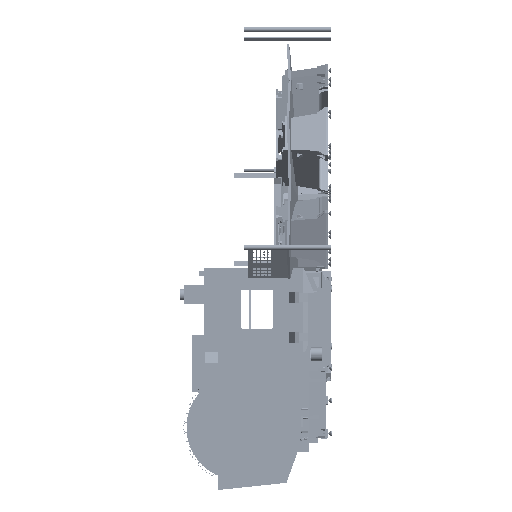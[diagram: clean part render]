
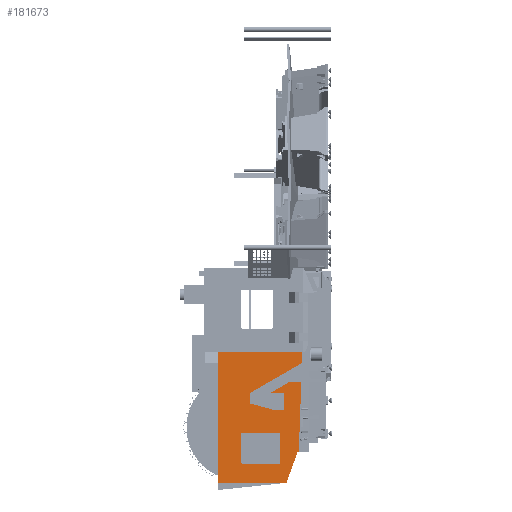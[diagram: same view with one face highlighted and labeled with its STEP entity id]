
A CAD part, left-side view. The second image highlights one B-rep face of the part: STEP entity #181673.
In plain terms, the highlighted planar face has unit normal (-1, 0, 0).
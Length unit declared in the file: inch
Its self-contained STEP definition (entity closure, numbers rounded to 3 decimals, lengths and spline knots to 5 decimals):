
#1323 = FACE_OUTER_BOUND ( 'NONE', #50277, .T. ) ;
#3857 = DIRECTION ( 'NONE',  ( 0., 0., 1. ) ) ;
#3967 = VERTEX_POINT ( 'NONE', #171233 ) ;
#14588 = EDGE_CURVE ( 'NONE', #66879, #314927, #60842, .T. ) ;
#18373 = VECTOR ( 'NONE', #172422, 39.37008 ) ;
#21450 = ORIENTED_EDGE ( 'NONE', *, *, #37521, .T. ) ;
#23327 = CARTESIAN_POINT ( 'NONE',  ( -56., 77.16475, -126.47279 ) ) ;
#31696 = EDGE_CURVE ( 'NONE', #3967, #137920, #278716, .T. ) ;
#32491 = CARTESIAN_POINT ( 'NONE',  ( -56., 8.60026, -117.41612 ) ) ;
#34394 = CARTESIAN_POINT ( 'NONE',  ( -56., 27.41629, -116.75905 ) ) ;
#37091 = EDGE_CURVE ( 'NONE', #155540, #3967, #298790, .T. ) ;
#37521 = EDGE_CURVE ( 'NONE', #282772, #155540, #141627, .T. ) ;
#37691 = CARTESIAN_POINT ( 'NONE',  ( -56., 44.16475, -125.47279 ) ) ;
#39473 = CARTESIAN_POINT ( 'NONE',  ( -56., 45.16475, -99.77279 ) ) ;
#41551 = DIRECTION ( 'NONE',  ( 0., -1., 0. ) ) ;
#44724 = EDGE_CURVE ( 'NONE', #304196, #302033, #367286, .T. ) ;
#50277 = EDGE_LOOP ( 'NONE', ( #216295, #274722, #21450, #270937, #64078, #387935, #379329 ) ) ;
#60164 = ORIENTED_EDGE ( 'NONE', *, *, #14588, .F. ) ;
#60842 = LINE ( 'NONE', #229911, #93441 ) ;
#61954 = EDGE_CURVE ( 'NONE', #302033, #411082, #347376, .T. ) ;
#63818 = AXIS2_PLACEMENT_3D ( 'NONE', #383178, #247014, #183325 ) ;
#64078 = ORIENTED_EDGE ( 'NONE', *, *, #31696, .T. ) ;
#66879 = VERTEX_POINT ( 'NONE', #193906 ) ;
#69306 = ORIENTED_EDGE ( 'NONE', *, *, #388114, .F. ) ;
#69742 = LINE ( 'NONE', #104814, #203654 ) ;
#70877 = CARTESIAN_POINT ( 'NONE',  ( -56., 77.16475, -100.77279 ) ) ;
#71530 = DIRECTION ( 'NONE',  ( 1., 0., 0. ) ) ;
#78164 = EDGE_CURVE ( 'NONE', #137920, #180106, #232664, .T. ) ;
#87718 = ORIENTED_EDGE ( 'NONE', *, *, #61954, .F. ) ;
#87929 = VECTOR ( 'NONE', #167023, 39.37008 ) ;
#88070 = CARTESIAN_POINT ( 'NONE',  ( -56., 45.16475, -99.77279 ) ) ;
#88130 = VERTEX_POINT ( 'NONE', #23327 ) ;
#93441 = VECTOR ( 'NONE', #131097, 39.37008 ) ;
#93548 = AXIS2_PLACEMENT_3D ( 'NONE', #307397, #371178, #235056 ) ;
#98379 = EDGE_LOOP ( 'NONE', ( #69306, #302757, #168346, #123710, #60164, #413974, #87718, #129448 ) ) ;
#98901 = CIRCLE ( 'NONE', #63818, 1. ) ;
#100047 = VECTOR ( 'NONE', #118863, 39.37008 ) ;
#104814 = CARTESIAN_POINT ( 'NONE',  ( -56., 44.16475, -125.47279 ) ) ;
#111806 = VECTOR ( 'NONE', #300366, 39.37008 ) ;
#114275 = CARTESIAN_POINT ( 'NONE',  ( -56., 78.16475, -125.47279 ) ) ;
#117899 = VECTOR ( 'NONE', #122185, 39.37008 ) ;
#118863 = DIRECTION ( 'NONE',  ( 0., 1., 0. ) ) ;
#120038 = LINE ( 'NONE', #418831, #117899 ) ;
#122185 = DIRECTION ( 'NONE',  ( 0., -0.035, 0.999 ) ) ;
#123710 = ORIENTED_EDGE ( 'NONE', *, *, #212138, .F. ) ;
#129448 = ORIENTED_EDGE ( 'NONE', *, *, #44724, .F. ) ;
#131097 = DIRECTION ( 'NONE',  ( 0., 0., -1. ) ) ;
#135282 = PLANE ( 'NONE',  #292554 ) ;
#136784 = DIRECTION ( 'NONE',  ( -1., 0., 0. ) ) ;
#137920 = VERTEX_POINT ( 'NONE', #408659 ) ;
#141627 = LINE ( 'NONE', #343659, #18373 ) ;
#142757 = VERTEX_POINT ( 'NONE', #34394 ) ;
#153890 = LINE ( 'NONE', #287828, #202375 ) ;
#155540 = VERTEX_POINT ( 'NONE', #347566 ) ;
#160976 = VERTEX_POINT ( 'NONE', #349201 ) ;
#161148 = CARTESIAN_POINT ( 'NONE',  ( -56., 44.16475, -100.77279 ) ) ;
#167023 = DIRECTION ( 'NONE',  ( 0., 0., -1. ) ) ;
#168283 = FACE_BOUND ( 'NONE', #98379, .T. ) ;
#168346 = ORIENTED_EDGE ( 'NONE', *, *, #326674, .F. ) ;
#171233 = CARTESIAN_POINT ( 'NONE',  ( -56., 98.04277, -143.66779 ) ) ;
#172422 = DIRECTION ( 'NONE',  ( 0., 1., 0. ) ) ;
#173636 = AXIS2_PLACEMENT_3D ( 'NONE', #212970, #177880, #377756 ) ;
#177880 = DIRECTION ( 'NONE',  ( -1., 0., 0. ) ) ;
#180106 = VERTEX_POINT ( 'NONE', #328549 ) ;
#181673 = ADVANCED_FACE ( 'NONE', ( #168283, #1323 ), #135282, .F. ) ;
#183325 = DIRECTION ( 'NONE',  ( 0., -1., 0. ) ) ;
#187075 = CARTESIAN_POINT ( 'NONE',  ( -56., 77.16475, -99.77279 ) ) ;
#193906 = CARTESIAN_POINT ( 'NONE',  ( -56., 78.16475, -100.77279 ) ) ;
#193942 = EDGE_CURVE ( 'NONE', #160976, #282772, #120038, .T. ) ;
#199952 = CARTESIAN_POINT ( 'NONE',  ( -56., 98.04277, -29.75 ) ) ;
#202375 = VECTOR ( 'NONE', #388835, 39.37008 ) ;
#203654 = VECTOR ( 'NONE', #3857, 39.37008 ) ;
#212138 = EDGE_CURVE ( 'NONE', #314927, #88130, #278990, .T. ) ;
#212970 = CARTESIAN_POINT ( 'NONE',  ( -56., 77.16475, -125.47279 ) ) ;
#216295 = ORIENTED_EDGE ( 'NONE', *, *, #300019, .T. ) ;
#229911 = CARTESIAN_POINT ( 'NONE',  ( -56., 78.16475, -100.77279 ) ) ;
#230261 = VECTOR ( 'NONE', #335859, 39.37008 ) ;
#230886 = VERTEX_POINT ( 'NONE', #319274 ) ;
#232664 = LINE ( 'NONE', #366628, #230261 ) ;
#235056 = DIRECTION ( 'NONE',  ( 0., -1., 0. ) ) ;
#239926 = DIRECTION ( 'NONE',  ( 0., -1., 0. ) ) ;
#240583 = CARTESIAN_POINT ( 'NONE',  ( -56., 4.5, 0. ) ) ;
#247014 = DIRECTION ( 'NONE',  ( -1., 0., 0. ) ) ;
#251525 = EDGE_CURVE ( 'NONE', #411082, #66879, #312298, .T. ) ;
#257168 = AXIS2_PLACEMENT_3D ( 'NONE', #70877, #136784, #239926 ) ;
#266011 = LINE ( 'NONE', #303231, #328887 ) ;
#269244 = DIRECTION ( 'NONE',  ( 0., 0., -1. ) ) ;
#270937 = ORIENTED_EDGE ( 'NONE', *, *, #37091, .T. ) ;
#274722 = ORIENTED_EDGE ( 'NONE', *, *, #193942, .T. ) ;
#278716 = LINE ( 'NONE', #344586, #425060 ) ;
#278990 = CIRCLE ( 'NONE', #173636, 1. ) ;
#282772 = VERTEX_POINT ( 'NONE', #358529 ) ;
#287828 = CARTESIAN_POINT ( 'NONE',  ( -56., 77.16475, -126.47279 ) ) ;
#292554 = AXIS2_PLACEMENT_3D ( 'NONE', #240583, #71530, #269244 ) ;
#298790 = LINE ( 'NONE', #199952, #87929 ) ;
#300019 = EDGE_CURVE ( 'NONE', #142757, #160976, #337669, .T. ) ;
#300366 = DIRECTION ( 'NONE',  ( 0., 0.999, 0.035 ) ) ;
#302033 = VERTEX_POINT ( 'NONE', #39473 ) ;
#302757 = ORIENTED_EDGE ( 'NONE', *, *, #336695, .F. ) ;
#303231 = CARTESIAN_POINT ( 'NONE',  ( -56., 27.28689, -116.75905 ) ) ;
#304196 = VERTEX_POINT ( 'NONE', #161148 ) ;
#307397 = CARTESIAN_POINT ( 'NONE',  ( -56., 45.16475, -100.77279 ) ) ;
#312298 = CIRCLE ( 'NONE', #257168, 1. ) ;
#314927 = VERTEX_POINT ( 'NONE', #114275 ) ;
#319274 = CARTESIAN_POINT ( 'NONE',  ( -56., 45.16475, -126.47279 ) ) ;
#326674 = EDGE_CURVE ( 'NONE', #88130, #230886, #153890, .T. ) ;
#328549 = CARTESIAN_POINT ( 'NONE',  ( -56., 29.38256, -116.75905 ) ) ;
#328887 = VECTOR ( 'NONE', #336229, 39.37008 ) ;
#335859 = DIRECTION ( 'NONE',  ( 0., -0.342, 0.94 ) ) ;
#336229 = DIRECTION ( 'NONE',  ( 0., -1., 0. ) ) ;
#336695 = EDGE_CURVE ( 'NONE', #230886, #414174, #98901, .T. ) ;
#337669 = LINE ( 'NONE', #32491, #111806 ) ;
#343659 = CARTESIAN_POINT ( 'NONE',  ( -56., 98.04277, -29.75 ) ) ;
#344586 = CARTESIAN_POINT ( 'NONE',  ( -56., 98.04277, -143.66779 ) ) ;
#347376 = LINE ( 'NONE', #88070, #100047 ) ;
#347566 = CARTESIAN_POINT ( 'NONE',  ( -56., 98.04277, -29.75 ) ) ;
#349201 = CARTESIAN_POINT ( 'NONE',  ( -56., 28.30643, -116.72796 ) ) ;
#358529 = CARTESIAN_POINT ( 'NONE',  ( -56., 25.26909, -29.75 ) ) ;
#360629 = EDGE_CURVE ( 'NONE', #180106, #142757, #266011, .T. ) ;
#366628 = CARTESIAN_POINT ( 'NONE',  ( -56., 39.17654, -143.66779 ) ) ;
#367286 = CIRCLE ( 'NONE', #93548, 1. ) ;
#371178 = DIRECTION ( 'NONE',  ( -1., 0., 0. ) ) ;
#377756 = DIRECTION ( 'NONE',  ( 0., -1., 0. ) ) ;
#379329 = ORIENTED_EDGE ( 'NONE', *, *, #360629, .T. ) ;
#383178 = CARTESIAN_POINT ( 'NONE',  ( -56., 45.16475, -125.47279 ) ) ;
#387935 = ORIENTED_EDGE ( 'NONE', *, *, #78164, .T. ) ;
#388114 = EDGE_CURVE ( 'NONE', #414174, #304196, #69742, .T. ) ;
#388835 = DIRECTION ( 'NONE',  ( 0., -1., 0. ) ) ;
#408659 = CARTESIAN_POINT ( 'NONE',  ( -56., 39.17654, -143.66779 ) ) ;
#411082 = VERTEX_POINT ( 'NONE', #187075 ) ;
#413974 = ORIENTED_EDGE ( 'NONE', *, *, #251525, .F. ) ;
#414174 = VERTEX_POINT ( 'NONE', #37691 ) ;
#418831 = CARTESIAN_POINT ( 'NONE',  ( -56., 24.20616, 0.68815 ) ) ;
#425060 = VECTOR ( 'NONE', #41551, 39.37008 ) ;
